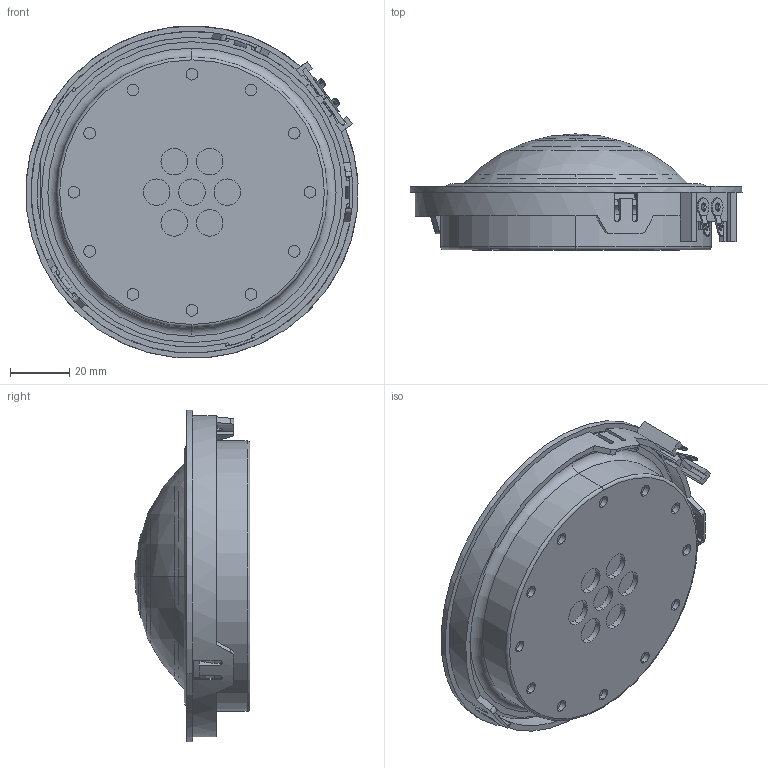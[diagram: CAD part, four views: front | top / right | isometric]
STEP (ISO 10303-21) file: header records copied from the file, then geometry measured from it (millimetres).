
FILE_DESCRIPTION (( 'STEP AP214' ), '1' );
FILE_NAME ('D7608-920000.STEP', '2020-10-22T05:47:45', ( '' ), ( '' ), 'SwSTEP 2.0', 'SolidWorks 2019', '' );
FILE_SCHEMA (( 'AUTOMOTIVE_DESIGN' ));
Length unit declared in the file: millimetre
Products named in the file (1): D7608-920000
Bounding box: 112.53 x 39.3 x 112.53 mm (x, y, z)
Volume: 207806.6 mm3; surface area: 36994.4 mm2
Topology: 1 solids, 5 shells, 351 faces, 972 edges, 629 vertices
Faces by surface type: plane 152, cylinder 150, torus 21, sphere 10, cone 10, bspline 8
Entity records: 15604 total; most frequent: CARTESIAN_POINT 3076, DIRECTION 1964, ORIENTED_EDGE 1928, EDGE_CURVE 964, AXIS2_PLACEMENT_3D 761, VERTEX_POINT 629, VECTOR 442, LINE 442
